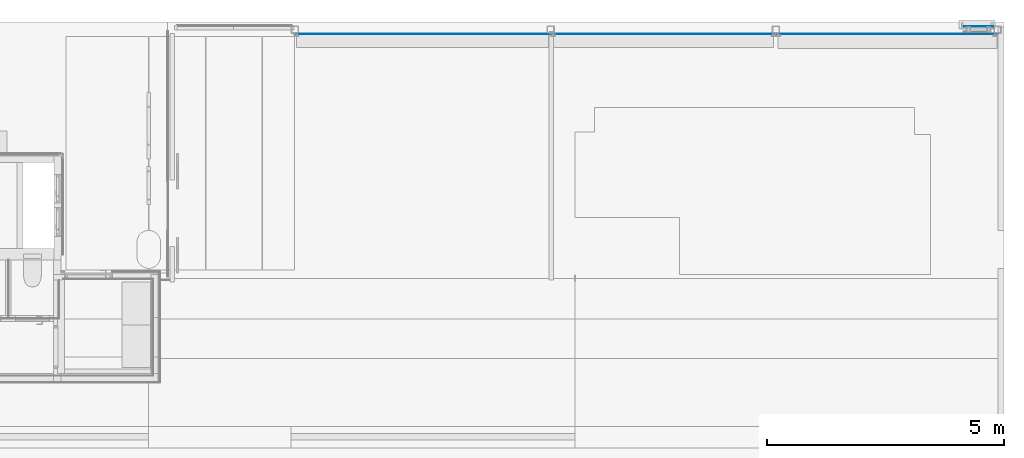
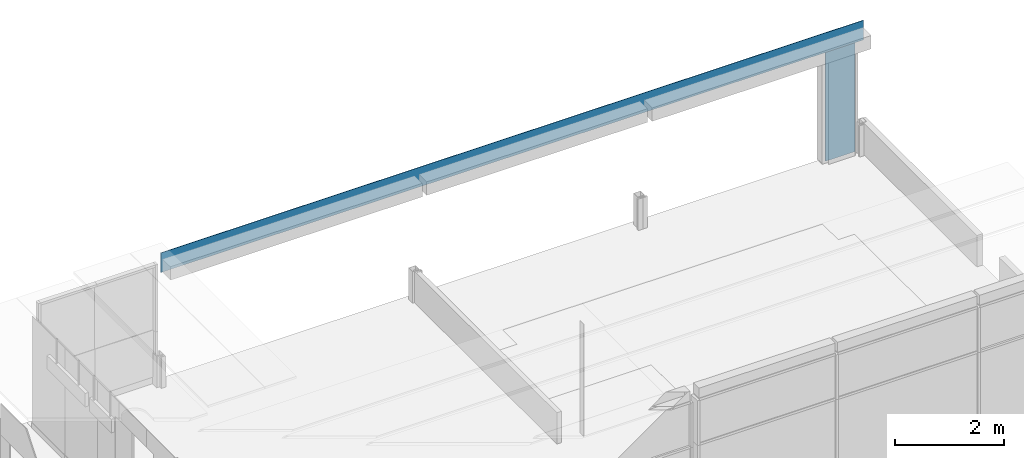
# One storey, part 11 of 26: 2 plates, 2 elements without a shape of their own.
"""IFC2X3 building model written with IfcOpenShell, lengths in millimetres."""

import ifcopenshell
import ifcopenshell.guid

model = None  # the IFC model being written
_history = None  # IfcOwnerHistory: only IFC2X3 demands one
_inside = {}  # id of a spatial element -> (the spatial element, [elements in it])
_under = {}  # id of a project, library or spatial element -> (it, [spatial elements below it])
_declared = {}  # id of a project -> (the project, [libraries it declares])
_typed = {}  # id of a type object -> (the type object, [elements of that type])
_made_of = {}  # id of a material, layer set ... -> (it, [elements and type objects made of it])


def new_model(schema):
    """Start an empty IFC model of exactly this schema.

    Asked for "IFC4X3", IfcOpenShell would pick the latest addendum, in which some entities
    have other attributes; the version numbers below select the first issue.
    IFC2X3 requires an IfcOwnerHistory on every rooted entity: one is made here for all.
    """
    global model, _history
    if schema == "IFC4X3":
        model = ifcopenshell.file(schema_version=(4, 3, 0, 0))
    else:
        model = ifcopenshell.file(schema=schema)
    _inside.clear()
    _under.clear()
    _declared.clear()
    _typed.clear()
    _made_of.clear()
    _history = None
    if model.schema == "IFC2X3":
        org = make("IfcOrganization", Name="unknown")
        user = make(
            "IfcPersonAndOrganization",
            ThePerson=make("IfcPerson", FamilyName="unknown"),
            TheOrganization=org,
        )
        app = make(
            "IfcApplication",
            ApplicationDeveloper=org,
            Version="unknown",
            ApplicationFullName="unknown",
            ApplicationIdentifier="unknown",
        )
        _history = make(
            "IfcOwnerHistory",
            OwningUser=user,
            OwningApplication=app,
            ChangeAction="ADDED",
            CreationDate=0,
        )
    return model


def make(cls, **values):
    """One entity of the class cls with the attributes given. An attribute that is None is left unset."""
    return model.create_entity(
        cls, **{name: value for name, value in values.items() if value is not None}
    )


def entity(cls, *values):
    """Any entity or typed value of the class cls, its attributes in the order of the schema. None: left unset."""
    e = model.create_entity(cls)
    for i, value in enumerate(values):
        if value is not None:
            e[i] = value
    return e


def rooted(cls, **values):
    """An entity with a GlobalId (a new one), such as an element, a storey or a relation."""
    return make(cls, GlobalId=ifcopenshell.guid.new(), OwnerHistory=_history, **values)


def si_unit(unit_type, name, prefix=None):
    """IfcSIUnit, for example si_unit("LENGTHUNIT", "METRE", prefix="MILLI")."""
    return make("IfcSIUnit", UnitType=unit_type, Prefix=prefix, Name=name)


def converted_unit(unit_type, name, factor, base, dimensions=None, offset=None):
    """IfcConversionBasedUnit, such as the inch: factor (a typed value) times the base unit."""
    return make(
        "IfcConversionBasedUnit"
        if offset is None
        else "IfcConversionBasedUnitWithOffset",
        ConversionOffset=offset,
        Dimensions=None
        if dimensions is None
        else entity("IfcDimensionalExponents", *dimensions),
        UnitType=unit_type,
        Name=name,
        ConversionFactor=make(
            "IfcMeasureWithUnit", ValueComponent=factor, UnitComponent=base
        ),
    )


def derived_unit(unit_type, elements):
    """IfcDerivedUnit: a product of units, each with its exponent."""
    return make(
        "IfcDerivedUnit",
        Elements=[
            make("IfcDerivedUnitElement", Unit=unit, Exponent=power)
            for unit, power in elements
        ],
        UnitType=unit_type,
    )


def assignment(units):
    """IfcUnitAssignment: the units of a project."""
    return None if units is None else make("IfcUnitAssignment", Units=units)


def point(xyz):
    """IfcCartesianPoint."""
    return None if xyz is None else make("IfcCartesianPoint", Coordinates=xyz)


def direction(xyz):
    """IfcDirection."""
    return None if xyz is None else make("IfcDirection", DirectionRatios=xyz)


def frame(location, z_axis=None, x_axis=None):
    """IfcAxis2Placement3D, a coordinate frame: its origin and axes. An axis left out is left unset."""
    return make(
        "IfcAxis2Placement3D",
        Location=point(location),
        Axis=direction(z_axis),
        RefDirection=direction(x_axis),
    )


def frame_2d(location, x_axis=None):
    """IfcAxis2Placement2D, a coordinate frame in the plane: its origin and x axis."""
    return make(
        "IfcAxis2Placement2D", Location=point(location), RefDirection=direction(x_axis)
    )


def origin():
    """The frame at (0, 0, 0) with its axes left unset."""
    return frame((0.0, 0.0, 0.0))


def origin_with_axes():
    """The frame at (0, 0, 0) with the z axis (0, 0, 1) and the x axis (1, 0, 0) written out."""
    return frame((0.0, 0.0, 0.0), z_axis=(0.0, 0.0, 1.0), x_axis=(1.0, 0.0, 0.0))


def origin_2d_with_axis():
    """The frame at (0, 0) in the plane with the x axis (1, 0) written out."""
    return frame_2d((0.0, 0.0), x_axis=(1.0, 0.0))


def place(relative_to, where):
    """IfcLocalPlacement: puts the frame where relative to a parent placement (None: the world)."""
    return make(
        "IfcLocalPlacement", PlacementRelTo=relative_to, RelativePlacement=where
    )


def context(
    kind, dimensions, precision=None, world=None, true_north=None, identifier=None
):
    """IfcGeometricRepresentationContext, for example the 3D "Model" context."""
    return make(
        "IfcGeometricRepresentationContext",
        ContextIdentifier=identifier,
        ContextType=kind,
        CoordinateSpaceDimension=dimensions,
        Precision=precision,
        WorldCoordinateSystem=world,
        TrueNorth=true_north,
    )


def subcontext(parent, identifier, kind, view, scale=None):
    """IfcGeometricRepresentationSubContext, for example "Body" below "Model"."""
    return make(
        "IfcGeometricRepresentationSubContext",
        ContextIdentifier=identifier,
        ContextType=kind,
        ParentContext=parent,
        TargetScale=scale,
        TargetView=view,
    )


def project(units=None, contexts=None):
    """IfcProject with its units and contexts."""
    return rooted(
        "IfcProject",
        Name="project",
        RepresentationContexts=contexts,
        UnitsInContext=assignment(units),
    )


def spatial(cls, under=None, at=None, **own):
    """A site, building, storey or space (cls), placed at a placement, below another one or the project."""
    s = rooted(cls, ObjectPlacement=at, **own)
    if under is not None:
        _under.setdefault(under.id(), (under, []))[1].append(s)
    return s


def profile(cls, at=None, kind="AREA", **sizes):
    """A parametric profile (cls). Its sizes go by their IFC names, for example OverallWidth=200.0."""
    return make(cls, ProfileType=kind, Position=at, **sizes)


def rectangle(**sizes):
    """IfcRectangleProfileDef."""
    return profile("IfcRectangleProfileDef", **sizes)


def extrude(swept, where, along, depth):
    """IfcExtrudedAreaSolid: the profile swept, set in the frame where, extruded along a direction by depth."""
    return make(
        "IfcExtrudedAreaSolid",
        SweptArea=swept,
        Position=where,
        ExtrudedDirection=direction(along),
        Depth=depth,
    )


def shape(context_of_items, identifier, shape_type, items):
    """IfcShapeRepresentation: the items that make up one representation, for example the "Body"."""
    return make(
        "IfcShapeRepresentation",
        ContextOfItems=context_of_items,
        RepresentationIdentifier=identifier,
        RepresentationType=shape_type,
        Items=items,
    )


def source(mapping_origin, context_of_items, identifier, shape_type, items):
    """IfcRepresentationMap: a shape defined once, which mapped items show again and again."""
    return make(
        "IfcRepresentationMap",
        MappingOrigin=mapping_origin,
        MappedRepresentation=shape(context_of_items, identifier, shape_type, items),
    )


def transform(
    local_origin,
    x_axis=None,
    y_axis=None,
    z_axis=None,
    scale=None,
    scale2=None,
    scale3=None,
    uniform=True,
):
    """IfcCartesianTransformationOperator3D, or its non-uniform kind. x_axis, y_axis, z_axis: its Axis1, 2, 3."""
    if uniform:
        return make(
            "IfcCartesianTransformationOperator3D",
            Axis1=direction(x_axis),
            Axis2=direction(y_axis),
            LocalOrigin=point(local_origin),
            Scale=scale,
            Axis3=direction(z_axis),
        )
    return make(
        "IfcCartesianTransformationOperator3DnonUniform",
        Axis1=direction(x_axis),
        Axis2=direction(y_axis),
        LocalOrigin=point(local_origin),
        Scale=scale,
        Axis3=direction(z_axis),
        Scale2=scale2,
        Scale3=scale3,
    )


def mapped(mapping_source, mapping_target):
    """IfcMappedItem: shows the shape of a source again, moved by a transform."""
    return make(
        "IfcMappedItem", MappingSource=mapping_source, MappingTarget=mapping_target
    )


def material(Name=None, Category=None):
    """IfcMaterial."""
    return make("IfcMaterial", Name=Name, Category=Category)


def made_of(thing, what):
    """Note that an element or type object is made of a material, layer set ...; save() writes the relation."""
    if what is not None:
        _made_of.setdefault(what.id(), (what, []))[1].append(thing)
    return thing


def type_object(cls, material=None, **own):
    """A type object (cls), such as IfcWallType, which elements share."""
    return made_of(rooted(cls, **own), material)


def element(
    cls,
    number,
    at=None,
    inside=None,
    cuts=None,
    type_object=None,
    material=None,
    context=None,
    identifier="Body",
    shape_type=None,
    held_by="IfcProductDefinitionShape",
    body=None,
    shapes=None,
    **own,
):
    """One element of the class cls, such as IfcWall. Its Tag is "e" and its number.

    at: its placement. inside: the storey or other place that contains it. cuts: it is an
    opening in that element (IfcRelVoidsElement). A single representation is given by context,
    identifier, shape_type and body (its items); several are given by shapes. held_by: the class
    of the entity that holds the representations. save() writes the other relations.
    """
    e = rooted(cls, Tag="e%d" % number, ObjectPlacement=at, **own)
    if body is not None:
        shapes = [shape(context, identifier, shape_type, body)]
    if shapes is not None:
        e.Representation = make(held_by, Representations=shapes)
    if inside is not None:
        _inside.setdefault(inside.id(), (inside, []))[1].append(e)
    if cuts is not None:
        rooted(
            "IfcRelVoidsElement", RelatingBuildingElement=cuts, RelatedOpeningElement=e
        )
    if type_object is not None:
        _typed.setdefault(type_object.id(), (type_object, []))[1].append(e)
    return made_of(e, material)


def aggregate(whole, parts):
    """IfcRelAggregates: a whole, such as a stair, and the parts it consists of."""
    return rooted("IfcRelAggregates", RelatingObject=whole, RelatedObjects=parts)


def save(model, path):
    """Write the relations noted so far, then the file.

    IfcRelAggregates (storeys below a building ...), IfcRelContainedInSpatialStructure (elements
    in a storey), IfcRelDefinesByType, IfcRelAssociatesMaterial and IfcRelDeclares: one each for
    every whole, place, type object, material and project.
    """
    for whole, parts in _under.values():
        aggregate(whole, parts)
    for where, things in _inside.values():
        rooted(
            "IfcRelContainedInSpatialStructure",
            RelatedElements=things,
            RelatingStructure=where,
        )
    for kind, things in _typed.values():
        rooted("IfcRelDefinesByType", RelatedObjects=things, RelatingType=kind)
    for what, things in _made_of.values():
        rooted("IfcRelAssociatesMaterial", RelatedObjects=things, RelatingMaterial=what)
    for by, libraries in _declared.values():
        rooted("IfcRelDeclares", RelatingContext=by, RelatedDefinitions=libraries)
    model.write(path)


model = new_model("IFC2X3")

# Units and contexts
model_context = context("Model", 3, precision=0.01, world=frame((0.0, 4.29681676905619e-09, 0.0)), true_north=direction((4.01073788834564e-13, 1.0)))
plan_context = context("Plan", 3, precision=0.01, world=frame((0.0, 4.29681676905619e-09, 0.0)), true_north=direction((4.01073788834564e-13, 1.0)))
body_context = subcontext(model_context, "Body", "Model", "MODEL_VIEW")
ifc_project = project(units=[converted_unit("PLANEANGLEUNIT", "DEGREE", entity("IfcPositiveLengthMeasure", 0.0174532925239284), si_unit("PLANEANGLEUNIT", "RADIAN"), dimensions=[0, 0, 0, 0, 0, 0, 0]), si_unit("AREAUNIT", "SQUARE_METRE"), si_unit("LENGTHUNIT", "METRE", prefix="MILLI"), si_unit("MASSUNIT", "GRAM", prefix="KILO"), si_unit("POWERUNIT", "WATT"), si_unit("PRESSUREUNIT", "PASCAL", prefix="KILO"), si_unit("FORCEUNIT", "NEWTON", prefix="KILO"), si_unit("ELECTRICVOLTAGEUNIT", "VOLT"), si_unit("ELECTRICCURRENTUNIT", "AMPERE"), si_unit("THERMODYNAMICTEMPERATUREUNIT", "DEGREE_CELSIUS"), si_unit("TIMEUNIT", "SECOND"), si_unit("VOLUMEUNIT", "CUBIC_METRE"), derived_unit("LINEARVELOCITYUNIT", [(si_unit("LENGTHUNIT", "METRE"), 1), (si_unit("TIMEUNIT", "SECOND"), -1)]), derived_unit("VOLUMETRICFLOWRATEUNIT", [(si_unit("VOLUMEUNIT", "CUBIC_METRE"), 1), (si_unit("TIMEUNIT", "SECOND"), -1)]), derived_unit("THERMALTRANSMITTANCEUNIT", [(si_unit("POWERUNIT", "WATT"), 1), (si_unit("THERMODYNAMICTEMPERATUREUNIT", "KELVIN"), -1), (si_unit("AREAUNIT", "SQUARE_METRE"), -1)]), derived_unit("SOUNDPRESSUREUNIT", [(si_unit("PRESSUREUNIT", "PASCAL"), 1)])], contexts=[model_context, plan_context])

# Site, building, storey
site_placement = place(None, origin_with_axes())
site = spatial("IfcSite", under=ifc_project, at=site_placement, Name="ENGM", CompositionType="ELEMENT")
building_placement = place(site_placement, origin_with_axes())
building = spatial("IfcBuilding", under=site, at=building_placement, Name="TG", CompositionType="ELEMENT")
storey_placement = place(building_placement, frame((0.0, 0.0, 210200.0), z_axis=(0.0, 0.0, 1.0), x_axis=(1.0, 0.0, 0.0)))
storey = spatial("IfcBuildingStorey", under=building, at=storey_placement, Name="Nivå F - 0,7 m", CompositionType="ELEMENT", Elevation=210200.0)

# Curtain wall, plate
curtain_wall_type_1 = type_object("IfcCurtainWallType", Name="Curtain Wall:A245 - IMK - Metal Kledning", PredefinedType="NOTDEFINED")
curtain_wall_1_placement = place(storey_placement, frame((0.0, 0.0, -210200.0), z_axis=(0.0, 0.0, 1.0), x_axis=(1.0, 0.0, 0.0)))
curtain_wall_1 = element("IfcCurtainWall", 1, at=curtain_wall_1_placement, inside=storey, type_object=curtain_wall_type_1, Name="Curtain Wall:A245 - IMK - Metal Kledning", ObjectType="Curtain Wall:A245 - IMK - Metal Kledning")
ifc_material_1 = material(Name="Metal - Preget plate")
plate_type_1 = type_object("IfcPlateType", Name="System Panel:A245 - KL-M00 - - - skal byttes manuelt", PredefinedType="CURTAIN_PANEL", material=ifc_material_1)
shared_shape_1 = source(origin(), body_context, "Body", "SweptSolid", [
    extrude(rectangle(XDim=10.0, YDim=14844.9999999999, at=frame_2d((4.44089209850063e-16, 0.0), x_axis=(1.0, 0.0))), frame((0.0, -10.0, 0.0), z_axis=(0.0, 0.0, 1.0), x_axis=(0.0, 1.0, 0.0)), (0.0, 0.0, 1.0), 439.999999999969),
])
plate_1_placement = place(curtain_wall_1_placement, frame((341506.500000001, 467239.999999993, 212760.0), z_axis=(0.0, 0.0, 1.0), x_axis=(-1.0, 0.0, 0.0)))
plate_1 = element("IfcPlate", 2, at=plate_1_placement, type_object=plate_type_1, material=ifc_material_1, Name="System Panel:A245 - KL-M00 - - - skal byttes manuelt", ObjectType="System Panel:A245 - KL-M00 - - - skal byttes manuelt", context=body_context, shape_type="MappedRepresentation", body=[
    mapped(shared_shape_1, transform((0.0, 0.0, 0.0), scale=1.0)),
])
aggregate(curtain_wall_1, [plate_1])

curtain_wall_type_2 = type_object("IfcCurtainWallType", Name="Curtain Wall:A245 - IGK - Glass Kledning", PredefinedType="NOTDEFINED")
curtain_wall_2_placement = place(storey_placement, frame((0.0, 0.0, -210200.0), z_axis=(0.0, 0.0, 1.0), x_axis=(1.0, 0.0, 0.0)))
curtain_wall_2 = element("IfcCurtainWall", 3, at=curtain_wall_2_placement, inside=storey, type_object=curtain_wall_type_2, Name="Curtain Wall:A245 - IGK - Glass Kledning", ObjectType="Curtain Wall:A245 - IGK - Glass Kledning")
ifc_material_2 = material(Name="Glasskledning, silketrykket")
plate_type_2 = type_object("IfcPlateType", Name="System Panel:A245 - KL-G00 - - - skal byttes manuelt", PredefinedType="CURTAIN_PANEL", material=ifc_material_2)
shared_shape_2 = source(origin(), body_context, "Body", "SweptSolid", [
    extrude(rectangle(XDim=10.0, YDim=618.999999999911, at=origin_2d_with_axis()), frame((0.0, -5.0, 0.0), z_axis=(0.0, 0.0, 1.0), x_axis=(0.0, 1.0, 0.0)), (0.0, 0.0, 1.0), 2430.0),
])
plate_2_placement = place(curtain_wall_2_placement, frame((348528.954194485, 467415.451223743, 210200.0), z_axis=(0.0, 0.0, 1.0), x_axis=(1.0, 0.0, 0.0)))
plate_2 = element("IfcPlate", 4, at=plate_2_placement, type_object=plate_type_2, material=ifc_material_2, Name="System Panel:A245 - KL-G00 - - - skal byttes manuelt", ObjectType="System Panel:A245 - KL-G00 - - - skal byttes manuelt", context=body_context, shape_type="MappedRepresentation", body=[
    mapped(shared_shape_2, transform((0.0, 0.0, 0.0), scale=1.0)),
])
aggregate(curtain_wall_2, [plate_2])

save(model, "model.ifc")
